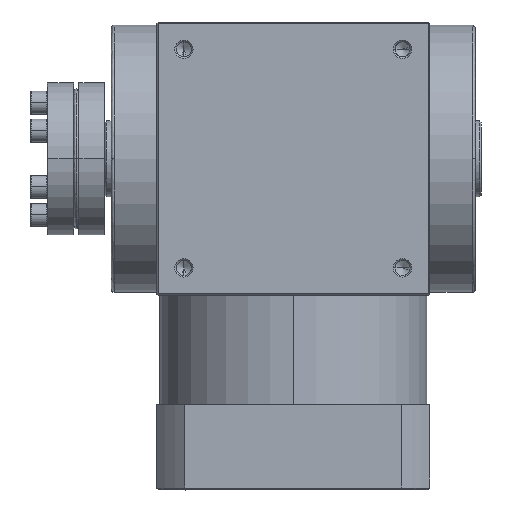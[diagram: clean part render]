
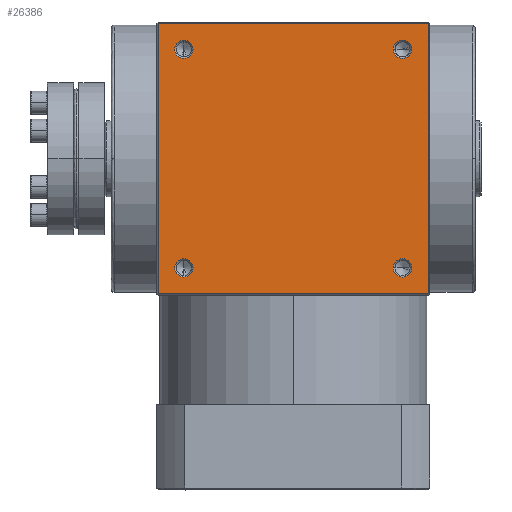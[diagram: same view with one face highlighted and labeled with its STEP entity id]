
A CAD part, top view. The second image highlights one B-rep face of the part: STEP entity #26386.
In plain terms, the highlighted planar face has unit normal (0, 0, 1).
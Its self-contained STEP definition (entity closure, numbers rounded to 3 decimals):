
#210 = VERTEX_POINT ( 'NONE', #28068 ) ;
#309 = DIRECTION ( 'NONE',  ( 1., 0., 0. ) ) ;
#1432 = EDGE_CURVE ( 'NONE', #24198, #210, #26884, .T. ) ;
#1511 = LINE ( 'NONE', #29948, #23272 ) ;
#1576 = CIRCLE ( 'NONE', #19375, 3. ) ;
#2037 = DIRECTION ( 'NONE',  ( -1., 0., 0. ) ) ;
#2155 = VERTEX_POINT ( 'NONE', #3177 ) ;
#2420 = VERTEX_POINT ( 'NONE', #4161 ) ;
#2573 = CARTESIAN_POINT ( 'NONE',  ( -33., -36., 45. ) ) ;
#2829 = DIRECTION ( 'NONE',  ( 0., 0., 1. ) ) ;
#2890 = CIRCLE ( 'NONE', #3770, 3. ) ;
#3177 = CARTESIAN_POINT ( 'NONE',  ( 44.5, -44.5, 45. ) ) ;
#3219 = DIRECTION ( 'NONE',  ( 1., 0., 0. ) ) ;
#3770 = AXIS2_PLACEMENT_3D ( 'NONE', #31125, #11074, #26493 ) ;
#4078 = CARTESIAN_POINT ( 'NONE',  ( -44.5, -44.5, 45. ) ) ;
#4121 = CARTESIAN_POINT ( 'NONE',  ( 44.5, -44.5, 45. ) ) ;
#4161 = CARTESIAN_POINT ( 'NONE',  ( 44.5, 44.5, 45. ) ) ;
#4185 = VERTEX_POINT ( 'NONE', #4078 ) ;
#4330 = DIRECTION ( 'NONE',  ( -1., 0., 0. ) ) ;
#4608 = AXIS2_PLACEMENT_3D ( 'NONE', #14368, #4617, #24467 ) ;
#4617 = DIRECTION ( 'NONE',  ( 0., 0., 1. ) ) ;
#4666 = VERTEX_POINT ( 'NONE', #16215 ) ;
#4914 = DIRECTION ( 'NONE',  ( 1., 0., 0. ) ) ;
#4996 = EDGE_CURVE ( 'NONE', #32717, #15442, #19726, .T. ) ;
#5021 = DIRECTION ( 'NONE',  ( 1., 0., 0. ) ) ;
#5340 = CIRCLE ( 'NONE', #32122, 3. ) ;
#5651 = EDGE_CURVE ( 'NONE', #21059, #14770, #5340, .T. ) ;
#6287 = ORIENTED_EDGE ( 'NONE', *, *, #29150, .F. ) ;
#6599 = EDGE_CURVE ( 'NONE', #210, #24198, #14701, .T. ) ;
#7376 = VERTEX_POINT ( 'NONE', #17988 ) ;
#8987 = PLANE ( 'NONE',  #20845 ) ;
#9070 = CARTESIAN_POINT ( 'NONE',  ( -39., 36., 45. ) ) ;
#9674 = AXIS2_PLACEMENT_3D ( 'NONE', #25120, #30097, #30205 ) ;
#10046 = CARTESIAN_POINT ( 'NONE',  ( 44.5, -44.5, 45. ) ) ;
#10381 = LINE ( 'NONE', #10046, #15536 ) ;
#10498 = CARTESIAN_POINT ( 'NONE',  ( 33., -36., 45. ) ) ;
#10939 = CARTESIAN_POINT ( 'NONE',  ( 36., -36., 45. ) ) ;
#11074 = DIRECTION ( 'NONE',  ( 0., 0., 1. ) ) ;
#12427 = CARTESIAN_POINT ( 'NONE',  ( 36., 36., 45. ) ) ;
#12433 = FACE_BOUND ( 'NONE', #16766, .T. ) ;
#12785 = ORIENTED_EDGE ( 'NONE', *, *, #6599, .F. ) ;
#12893 = DIRECTION ( 'NONE',  ( 0., 0., 1. ) ) ;
#12900 = EDGE_LOOP ( 'NONE', ( #27154, #29396 ) ) ;
#13549 = ORIENTED_EDGE ( 'NONE', *, *, #27007, .F. ) ;
#14368 = CARTESIAN_POINT ( 'NONE',  ( -36., 36., 45. ) ) ;
#14701 = CIRCLE ( 'NONE', #4608, 3. ) ;
#14709 = EDGE_LOOP ( 'NONE', ( #13549, #15886, #6287, #32243 ) ) ;
#14770 = VERTEX_POINT ( 'NONE', #22857 ) ;
#15383 = ORIENTED_EDGE ( 'NONE', *, *, #1432, .F. ) ;
#15442 = VERTEX_POINT ( 'NONE', #10498 ) ;
#15536 = VECTOR ( 'NONE', #29876, 1000. ) ;
#15598 = DIRECTION ( 'NONE',  ( 0., 0., 1. ) ) ;
#15886 = ORIENTED_EDGE ( 'NONE', *, *, #18905, .T. ) ;
#16215 = CARTESIAN_POINT ( 'NONE',  ( -39., -36., 45. ) ) ;
#16642 = DIRECTION ( 'NONE',  ( -1., 0., 0. ) ) ;
#16649 = AXIS2_PLACEMENT_3D ( 'NONE', #10939, #15598, #3219 ) ;
#16766 = EDGE_LOOP ( 'NONE', ( #19244, #26512 ) ) ;
#16891 = EDGE_CURVE ( 'NONE', #4666, #26673, #24368, .T. ) ;
#16970 = CIRCLE ( 'NONE', #26187, 3. ) ;
#17512 = EDGE_CURVE ( 'NONE', #15442, #32717, #2890, .T. ) ;
#17988 = CARTESIAN_POINT ( 'NONE',  ( -44.5, 44.5, 45. ) ) ;
#18590 = CARTESIAN_POINT ( 'NONE',  ( -44.5, -44.5, 45. ) ) ;
#18762 = CARTESIAN_POINT ( 'NONE',  ( 44.5, -44.5, 45. ) ) ;
#18905 = EDGE_CURVE ( 'NONE', #2420, #7376, #1511, .T. ) ;
#19244 = ORIENTED_EDGE ( 'NONE', *, *, #29457, .F. ) ;
#19375 = AXIS2_PLACEMENT_3D ( 'NONE', #27745, #2829, #5021 ) ;
#19625 = DIRECTION ( 'NONE',  ( 0., 0., -1. ) ) ;
#19701 = LINE ( 'NONE', #18762, #32312 ) ;
#19726 = CIRCLE ( 'NONE', #16649, 3. ) ;
#20442 = AXIS2_PLACEMENT_3D ( 'NONE', #20988, #31133, #30915 ) ;
#20845 = AXIS2_PLACEMENT_3D ( 'NONE', #4121, #19625, #4330 ) ;
#20863 = EDGE_LOOP ( 'NONE', ( #23090, #23785 ) ) ;
#20988 = CARTESIAN_POINT ( 'NONE',  ( -36., 36., 45. ) ) ;
#21059 = VERTEX_POINT ( 'NONE', #28871 ) ;
#21225 = FACE_BOUND ( 'NONE', #12900, .T. ) ;
#21350 = DIRECTION ( 'NONE',  ( 0., 1., 0. ) ) ;
#21541 = EDGE_CURVE ( 'NONE', #2155, #4185, #19701, .T. ) ;
#22857 = CARTESIAN_POINT ( 'NONE',  ( 39., 36., 45. ) ) ;
#23090 = ORIENTED_EDGE ( 'NONE', *, *, #23405, .F. ) ;
#23166 = FACE_BOUND ( 'NONE', #20863, .T. ) ;
#23272 = VECTOR ( 'NONE', #2037, 1000. ) ;
#23405 = EDGE_CURVE ( 'NONE', #14770, #21059, #16970, .T. ) ;
#23785 = ORIENTED_EDGE ( 'NONE', *, *, #5651, .F. ) ;
#24198 = VERTEX_POINT ( 'NONE', #9070 ) ;
#24368 = CIRCLE ( 'NONE', #9674, 3. ) ;
#24467 = DIRECTION ( 'NONE',  ( 1., 0., 0. ) ) ;
#25120 = CARTESIAN_POINT ( 'NONE',  ( -36., -36., 45. ) ) ;
#25575 = CARTESIAN_POINT ( 'NONE',  ( 36., 36., 45. ) ) ;
#25585 = FACE_BOUND ( 'NONE', #30758, .T. ) ;
#26187 = AXIS2_PLACEMENT_3D ( 'NONE', #12427, #30080, #4914 ) ;
#26386 = ADVANCED_FACE ( 'NONE', ( #27947, #21225, #12433, #23166, #25585 ), #8987, .F. ) ;
#26493 = DIRECTION ( 'NONE',  ( 1., 0., 0. ) ) ;
#26512 = ORIENTED_EDGE ( 'NONE', *, *, #16891, .F. ) ;
#26673 = VERTEX_POINT ( 'NONE', #2573 ) ;
#26884 = CIRCLE ( 'NONE', #20442, 3. ) ;
#27007 = EDGE_CURVE ( 'NONE', #2420, #2155, #10381, .T. ) ;
#27154 = ORIENTED_EDGE ( 'NONE', *, *, #4996, .F. ) ;
#27619 = VECTOR ( 'NONE', #21350, 1000. ) ;
#27745 = CARTESIAN_POINT ( 'NONE',  ( -36., -36., 45. ) ) ;
#27947 = FACE_OUTER_BOUND ( 'NONE', #14709, .T. ) ;
#28068 = CARTESIAN_POINT ( 'NONE',  ( -33., 36., 45. ) ) ;
#28871 = CARTESIAN_POINT ( 'NONE',  ( 33., 36., 45. ) ) ;
#29150 = EDGE_CURVE ( 'NONE', #4185, #7376, #31928, .T. ) ;
#29396 = ORIENTED_EDGE ( 'NONE', *, *, #17512, .F. ) ;
#29457 = EDGE_CURVE ( 'NONE', #26673, #4666, #1576, .T. ) ;
#29876 = DIRECTION ( 'NONE',  ( 0., -1., 0. ) ) ;
#29948 = CARTESIAN_POINT ( 'NONE',  ( 44.5, 44.5, 45. ) ) ;
#30080 = DIRECTION ( 'NONE',  ( 0., 0., 1. ) ) ;
#30097 = DIRECTION ( 'NONE',  ( 0., 0., 1. ) ) ;
#30205 = DIRECTION ( 'NONE',  ( 1., 0., 0. ) ) ;
#30492 = CARTESIAN_POINT ( 'NONE',  ( 39., -36., 45. ) ) ;
#30758 = EDGE_LOOP ( 'NONE', ( #12785, #15383 ) ) ;
#30915 = DIRECTION ( 'NONE',  ( 1., 0., 0. ) ) ;
#31125 = CARTESIAN_POINT ( 'NONE',  ( 36., -36., 45. ) ) ;
#31133 = DIRECTION ( 'NONE',  ( 0., 0., 1. ) ) ;
#31928 = LINE ( 'NONE', #18590, #27619 ) ;
#32122 = AXIS2_PLACEMENT_3D ( 'NONE', #25575, #12893, #309 ) ;
#32243 = ORIENTED_EDGE ( 'NONE', *, *, #21541, .F. ) ;
#32312 = VECTOR ( 'NONE', #16642, 1000. ) ;
#32717 = VERTEX_POINT ( 'NONE', #30492 ) ;
